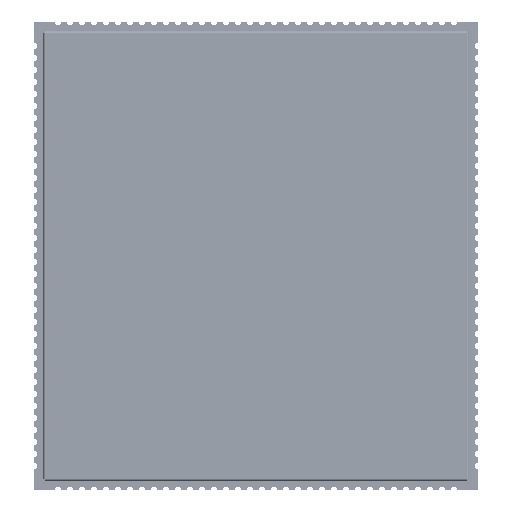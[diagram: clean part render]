
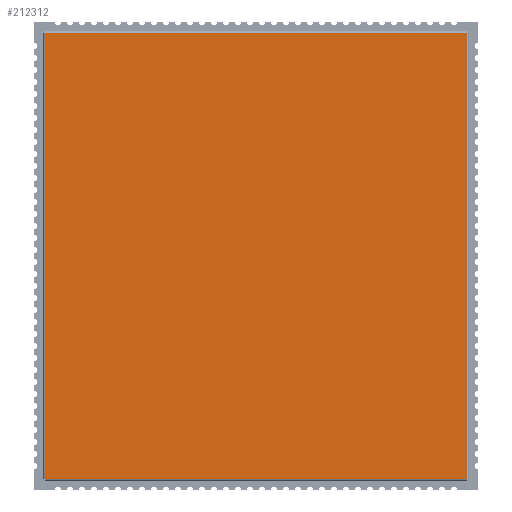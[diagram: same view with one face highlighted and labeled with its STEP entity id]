
A CAD part, top view. The second image highlights one B-rep face of the part: STEP entity #212312.
In plain terms, the highlighted planar face has unit normal (0, 0, 1) as drawn and (0, 1, 0) by its records, which use the part's own axes.
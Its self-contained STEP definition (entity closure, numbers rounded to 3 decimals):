
#208825=DIRECTION('',(0.,0.,-1.));
#208826=VECTOR('',#208825,37.1);
#208827=CARTESIAN_POINT('',(-17.55,0.2,18.55));
#208828=LINE('',#208827,#208826);
#210165=DIRECTION('',(-1.,0.,0.));
#210166=VECTOR('',#210165,35.1);
#210167=CARTESIAN_POINT('',(17.55,0.2,18.55));
#210168=LINE('',#210167,#210166);
#210195=DIRECTION('',(1.,0.,0.));
#210196=VECTOR('',#210195,35.1);
#210197=CARTESIAN_POINT('',(-17.55,0.2,-18.55));
#210198=LINE('',#210197,#210196);
#210240=DIRECTION('',(0.,0.,1.));
#210241=VECTOR('',#210240,37.1);
#210242=CARTESIAN_POINT('',(17.55,0.2,-18.55));
#210243=LINE('',#210242,#210241);
#210429=CARTESIAN_POINT('',(-17.55,0.2,-18.55));
#210430=VERTEX_POINT('',#210429);
#210431=CARTESIAN_POINT('',(-17.55,0.2,18.55));
#210432=VERTEX_POINT('',#210431);
#210441=CARTESIAN_POINT('',(17.55,0.2,18.55));
#210442=VERTEX_POINT('',#210441);
#210443=CARTESIAN_POINT('',(17.55,0.2,-18.55));
#210444=VERTEX_POINT('',#210443);
#212299=CARTESIAN_POINT('',(0.,0.2,0.));
#212300=DIRECTION('',(0.,1.,0.));
#212301=DIRECTION('',(1.,0.,0.));
#212302=AXIS2_PLACEMENT_3D('',#212299,#212300,#212301);
#212303=PLANE('',#212302);
#212304=ORIENTED_EDGE('',*,*,#212290,.T.);
#212305=ORIENTED_EDGE('',*,*,#211103,.T.);
#212307=ORIENTED_EDGE('',*,*,#212306,.T.);
#212309=ORIENTED_EDGE('',*,*,#212308,.T.);
#212310=EDGE_LOOP('',(#212304,#212305,#212307,#212309));
#212311=FACE_OUTER_BOUND('',#212310,.F.);
#211103=EDGE_CURVE('',#210432,#210430,#208828,.T.);
#212290=EDGE_CURVE('',#210442,#210432,#210168,.T.);
#212306=EDGE_CURVE('',#210430,#210444,#210198,.T.);
#212308=EDGE_CURVE('',#210444,#210442,#210243,.T.);
#212312=ADVANCED_FACE('',(#212311),#212303,.T.);
